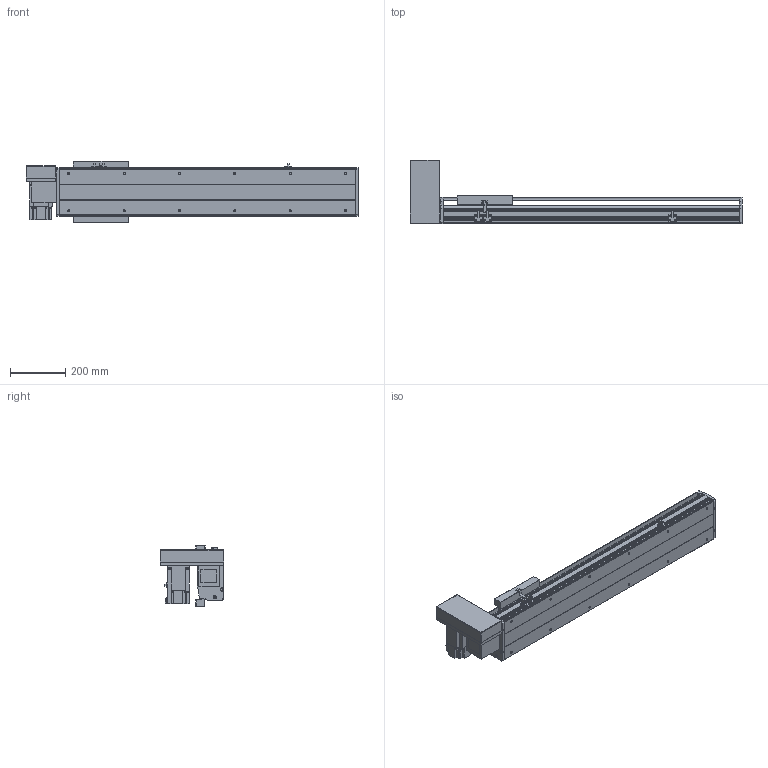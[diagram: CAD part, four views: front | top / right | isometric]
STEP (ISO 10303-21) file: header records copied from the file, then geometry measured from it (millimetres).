
FILE_DESCRIPTION(/* description */ ('STEP AP214'),/* implementation_level */ '2;1');
FILE_NAME(/* name */ 'PBS200-P40-S700-RU-T75-C1-N(0)',/* time_stamp */ '2022-06-11T09:34:50+02:00',/* author */ ('License CC BY-ND 4.0'),/* organization */ ('CADENAS'),/* preprocessor_version */ 'ST-DEVELOPER v18.102',/* originating_system */ 'PARTsolutions',/* authorisation */ ' ');
FILE_SCHEMA (('AUTOMOTIVE_DESIGN {1 0 10303 214 3 1 1}'));
Length unit declared in the file: millimetre
Products named in the file (7): PBS200-P40-S700-RU-T75-C1-N(0); PBS200_sensor; PBS200_plant; PBS200_sliser; T75-p1; PBS200T-RU_motors; PBS200-S700()_body
Assembly tree (8 placements, depth 2):
  PBS200-P40-S700-RU-T75-C1-N(0)
    PBS200_sensor  x3
    PBS200_plant
    PBS200_sliser
    T75-p1
    PBS200T-RU_motors
    PBS200-S700()_body
Bounding box: 1200 x 231 x 221 mm (x, y, z)
Volume: 9364336.4 mm3; surface area: 1523968.6 mm2
Topology: 8 solids, 8 shells, 908 faces, 2354 edges, 1536 vertices
Faces by surface type: plane 570, cylinder 294, cone 44
Full cylindrical faces by diameter (mm): 2.459 x6, 3.242 x4, 4.5 x6, 4.917 x4, 5 x6, 6 x7, 6.6 x8, 6.647 x16, 8 x6, 10 x4, 12 x8, 38 x2, 40 x1, 70 x1
Entity records: 24341 total; most frequent: DIRECTION 4279, CARTESIAN_POINT 4156, ORIENTED_EDGE 3958, EDGE_CURVE 1979, AXIS2_PLACEMENT_3D 1483, VERTEX_POINT 1360, LINE 1313, VECTOR 1313
